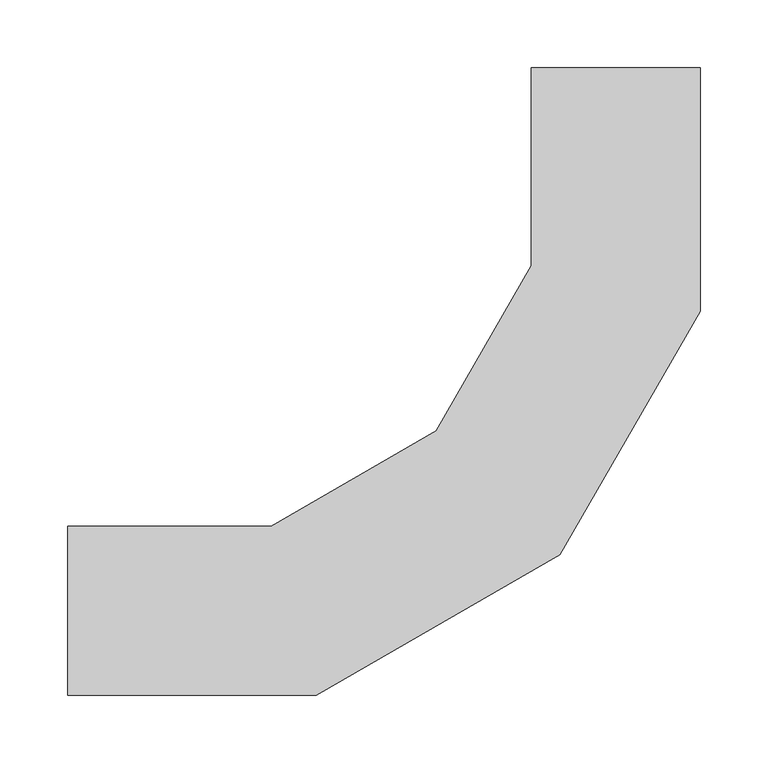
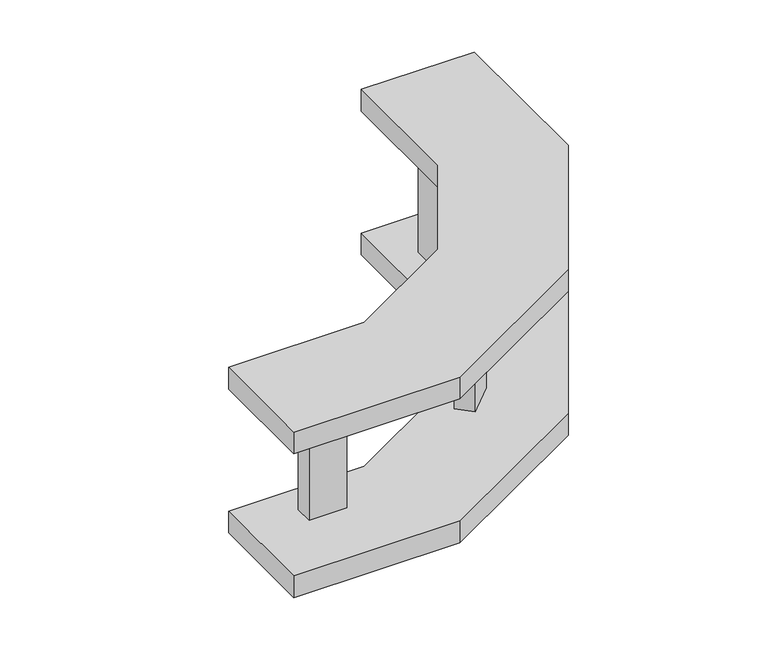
"""IFC4 building model written with IfcOpenShell, lengths in millimetres: cable carrier fitting geometry, Legrand_CableLadder_Swifts_Sapphire_OutsideRiser-13 : Hot Dip Galvanised (after manufacture)."""

from ifc_helpers import new_model, si_unit, frame, origin, place, context, project, spatial, polyline, outline, extrude, source, transform, mapped, element, save


def cable_carrier_fitting_c9547b50(model_context):
    return source(origin(), model_context, "Body", "SweptSolid", [
        extrude(outline(polyline([(-132.4598487, 102.7613639), (-102.7613639, 132.4598487), (-87.9121215, 117.6106063), (-117.6106063, 87.9121215), (-132.4598487, 102.7613639)])), frame((0.0, 0.0, -71.5), z_axis=(0.0, 0.0, 1.0), x_axis=(1.0, 0.0, 0.0)), (0.0, 0.0, 1.0), 143.0),
        extrude(outline(polyline([(-346.5, 31.5), (-304.5, 31.5), (-304.5, 10.5), (-346.5, 10.5), (-346.5, 31.5)])), frame((0.0, 0.0, -71.5), z_axis=(0.0, 0.0, 1.0), x_axis=(1.0, 0.0, 0.0)), (0.0, 0.0, 1.0), 143.0),
        extrude(outline(polyline([(-31.5, 304.5), (-31.5, 346.5), (-10.5, 346.5), (-10.5, 304.5), (-31.5, 304.5)])), frame((0.0, 0.0, -71.5), z_axis=(0.0, 0.0, 1.0), x_axis=(1.0, 0.0, 0.0)), (0.0, 0.0, 1.0), 143.0),
        extrude(outline(polyline([(-221.5357133, -62.5), (-405.5, -62.5), (-405.5, 62.5), (-255.0293624, 62.5), (-132.9706376, 132.9706376), (-62.5, 255.0293624), (-62.5, 401.7), (62.5, 401.7), (62.5, 221.5357133), (-41.4642867, 41.4642867), (-221.5357133, -62.5)])), frame((0.0, 0.0, -97.0), z_axis=(0.0, 0.0, 1.0), x_axis=(1.0, 0.0, 0.0)), (0.0, 0.0, 1.0), 25.5),
        extrude(outline(polyline([(-405.5, -62.5), (-405.5, 62.5), (-255.0293624, 62.5), (-132.9706376, 132.9706376), (-62.5, 255.0293624), (-62.5, 401.7), (62.5, 401.7), (62.5, 221.5357133), (-41.4642867, 41.4642867), (-221.5357133, -62.5), (-405.5, -62.5)])), frame((0.0, 0.0, 71.5), z_axis=(0.0, 0.0, 1.0), x_axis=(1.0, 0.0, 0.0)), (0.0, 0.0, 1.0), 25.5),
    ])


if __name__ == "__main__":
    model = new_model("IFC4")
    model_context = context("Model", 3, world=origin())
    ifc_project = project(units=[si_unit("LENGTHUNIT", "METRE", prefix="MILLI")], contexts=[model_context])
    site = spatial("IfcSite", under=ifc_project)
    building = spatial("IfcBuilding", under=site)
    placement = place(None, origin())
    cable_carrier_fitting_shape = cable_carrier_fitting_c9547b50(model_context)
    element("IfcCableCarrierFitting", 1, ObjectType="Legrand_CableLadder_Swifts_Sapphire_OutsideRiser-13 : Hot Dip Galvanised (after manufacture)", at=placement, inside=building, context=model_context, shape_type="MappedRepresentation", body=[
        mapped(cable_carrier_fitting_shape, transform((0.0, 0.0, 0.0), x_axis=(1.0, 0.0, 0.0), y_axis=(0.0, 1.0, 0.0), z_axis=(0.0, 0.0, 1.0))),
    ])
    save(model, "model.ifc")
